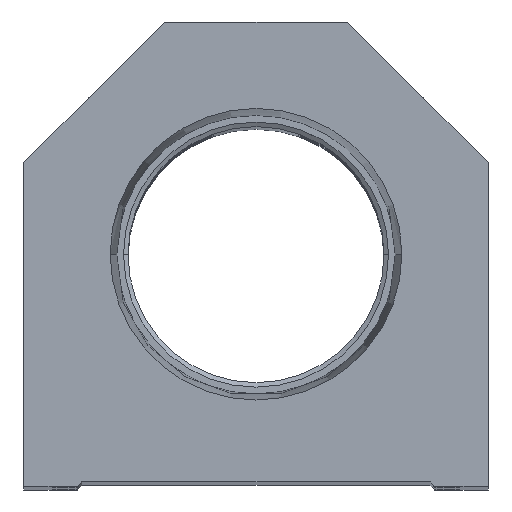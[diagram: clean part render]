
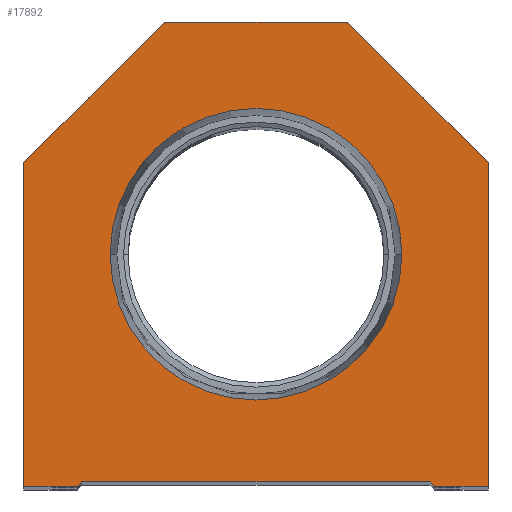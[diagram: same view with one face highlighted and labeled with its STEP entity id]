
A CAD part, top view. The second image highlights one B-rep face of the part: STEP entity #17892.
In plain terms, the highlighted planar face has unit normal (0, 0, 1).
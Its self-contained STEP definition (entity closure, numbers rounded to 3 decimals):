
#270 = LINE ( 'NONE', #368, #7147 ) ;
#328 = CARTESIAN_POINT ( 'NONE',  ( 25.4, 0., 0. ) ) ;
#368 = CARTESIAN_POINT ( 'NONE',  ( 25.4, 35.4, 0. ) ) ;
#451 = VERTEX_POINT ( 'NONE', #328 ) ;
#505 = LINE ( 'NONE', #12059, #2577 ) ;
#549 = ORIENTED_EDGE ( 'NONE', *, *, #17530, .T. ) ;
#568 = CARTESIAN_POINT ( 'NONE',  ( 15.947, 25.4, 0. ) ) ;
#1078 = ORIENTED_EDGE ( 'NONE', *, *, #5978, .T. ) ;
#1593 = CARTESIAN_POINT ( 'NONE',  ( -19.05, 0., 0. ) ) ;
#1811 = VERTEX_POINT ( 'NONE', #2468 ) ;
#1891 = CIRCLE ( 'NONE', #17880, 15.947 ) ;
#1935 = ORIENTED_EDGE ( 'NONE', *, *, #10422, .T. ) ;
#1956 = ORIENTED_EDGE ( 'NONE', *, *, #3929, .T. ) ;
#2033 = EDGE_CURVE ( 'NONE', #13351, #17469, #14339, .T. ) ;
#2123 = DIRECTION ( 'NONE',  ( 1., 0., 0. ) ) ;
#2124 = EDGE_CURVE ( 'NONE', #4191, #6564, #4710, .T. ) ;
#2361 = ORIENTED_EDGE ( 'NONE', *, *, #8197, .T. ) ;
#2468 = CARTESIAN_POINT ( 'NONE',  ( -19.05, 0.5, 0. ) ) ;
#2577 = VECTOR ( 'NONE', #17706, 1000. ) ;
#3410 = DIRECTION ( 'NONE',  ( 1., 0., 0. ) ) ;
#3605 = LINE ( 'NONE', #3698, #7396 ) ;
#3698 = CARTESIAN_POINT ( 'NONE',  ( 9.775, 9.775, 0. ) ) ;
#3853 = CARTESIAN_POINT ( 'NONE',  ( 10., 50.8, 0. ) ) ;
#3929 = EDGE_CURVE ( 'NONE', #18327, #1811, #4585, .T. ) ;
#3977 = ORIENTED_EDGE ( 'NONE', *, *, #6717, .T. ) ;
#4106 = DIRECTION ( 'NONE',  ( 0., -1., 0. ) ) ;
#4161 = VECTOR ( 'NONE', #11717, 1000. ) ;
#4191 = VERTEX_POINT ( 'NONE', #9398 ) ;
#4569 = EDGE_CURVE ( 'NONE', #6564, #4191, #1891, .T. ) ;
#4585 = LINE ( 'NONE', #9059, #14702 ) ;
#4710 = CIRCLE ( 'NONE', #10185, 15.947 ) ;
#4985 = PLANE ( 'NONE',  #17757 ) ;
#5176 = CARTESIAN_POINT ( 'NONE',  ( 0., 0., 0. ) ) ;
#5369 = CARTESIAN_POINT ( 'NONE',  ( 10., 50.8, 0. ) ) ;
#5401 = LINE ( 'NONE', #15556, #8357 ) ;
#5978 = EDGE_CURVE ( 'NONE', #8664, #13351, #17097, .T. ) ;
#6434 = DIRECTION ( 'NONE',  ( 0., 0., 1. ) ) ;
#6564 = VERTEX_POINT ( 'NONE', #568 ) ;
#6717 = EDGE_CURVE ( 'NONE', #15381, #12721, #270, .T. ) ;
#6850 = DIRECTION ( 'NONE',  ( 1., 0., 0. ) ) ;
#7147 = VECTOR ( 'NONE', #12093, 1000. ) ;
#7396 = VECTOR ( 'NONE', #7773, 1000. ) ;
#7509 = LINE ( 'NONE', #1593, #4161 ) ;
#7623 = CARTESIAN_POINT ( 'NONE',  ( -19.55, 0., 0. ) ) ;
#7763 = VECTOR ( 'NONE', #4106, 1000. ) ;
#7773 = DIRECTION ( 'NONE',  ( 0.707, -0.707, 0. ) ) ;
#7840 = CARTESIAN_POINT ( 'NONE',  ( 25.4, 35.4, 0. ) ) ;
#7915 = DIRECTION ( 'NONE',  ( 0.707, 0.707, 0. ) ) ;
#8169 = ORIENTED_EDGE ( 'NONE', *, *, #13507, .T. ) ;
#8197 = EDGE_CURVE ( 'NONE', #12721, #8664, #15125, .T. ) ;
#8357 = VECTOR ( 'NONE', #8543, 1000. ) ;
#8489 = ORIENTED_EDGE ( 'NONE', *, *, #2124, .F. ) ;
#8543 = DIRECTION ( 'NONE',  ( 1., 0., 0. ) ) ;
#8562 = DIRECTION ( 'NONE',  ( -0.707, -0.707, 0. ) ) ;
#8664 = VERTEX_POINT ( 'NONE', #11146 ) ;
#9059 = CARTESIAN_POINT ( 'NONE',  ( -9.775, 9.775, 0. ) ) ;
#9398 = CARTESIAN_POINT ( 'NONE',  ( -15.947, 25.4, 0. ) ) ;
#9562 = FACE_BOUND ( 'NONE', #17247, .T. ) ;
#9762 = CARTESIAN_POINT ( 'NONE',  ( -25.4, 35.4, 0. ) ) ;
#10065 = CARTESIAN_POINT ( 'NONE',  ( -25.4, 35.4, 0. ) ) ;
#10185 = AXIS2_PLACEMENT_3D ( 'NONE', #12840, #12749, #6850 ) ;
#10422 = EDGE_CURVE ( 'NONE', #16080, #17080, #3605, .T. ) ;
#10455 = ORIENTED_EDGE ( 'NONE', *, *, #17745, .T. ) ;
#10508 = VECTOR ( 'NONE', #11054, 1000. ) ;
#10520 = DIRECTION ( 'NONE',  ( 0., 0., 1. ) ) ;
#11047 = EDGE_LOOP ( 'NONE', ( #11207, #1956, #549, #1935, #8169, #10455, #3977, #2361, #1078, #12058 ) ) ;
#11054 = DIRECTION ( 'NONE',  ( -1., 0., 0. ) ) ;
#11146 = CARTESIAN_POINT ( 'NONE',  ( -10., 50.8, 0. ) ) ;
#11207 = ORIENTED_EDGE ( 'NONE', *, *, #15010, .T. ) ;
#11432 = CARTESIAN_POINT ( 'NONE',  ( -25.4, 0., 0. ) ) ;
#11717 = DIRECTION ( 'NONE',  ( 1., 0., 0. ) ) ;
#11962 = LINE ( 'NONE', #17535, #12616 ) ;
#12058 = ORIENTED_EDGE ( 'NONE', *, *, #2033, .T. ) ;
#12059 = CARTESIAN_POINT ( 'NONE',  ( 19.05, 0., 0. ) ) ;
#12093 = DIRECTION ( 'NONE',  ( -0.707, 0.707, 0. ) ) ;
#12616 = VECTOR ( 'NONE', #16399, 1000. ) ;
#12721 = VERTEX_POINT ( 'NONE', #5369 ) ;
#12749 = DIRECTION ( 'NONE',  ( 0., 0., 1. ) ) ;
#12840 = CARTESIAN_POINT ( 'NONE',  ( 0., 25.4, 0. ) ) ;
#13351 = VERTEX_POINT ( 'NONE', #9762 ) ;
#13507 = EDGE_CURVE ( 'NONE', #17080, #451, #505, .T. ) ;
#13803 = VECTOR ( 'NONE', #8562, 1000. ) ;
#14339 = LINE ( 'NONE', #11432, #7763 ) ;
#14601 = CARTESIAN_POINT ( 'NONE',  ( -25.4, 0., 0. ) ) ;
#14702 = VECTOR ( 'NONE', #7915, 1000. ) ;
#14940 = CARTESIAN_POINT ( 'NONE',  ( 19.55, 0., 0. ) ) ;
#15010 = EDGE_CURVE ( 'NONE', #17469, #18327, #7509, .T. ) ;
#15125 = LINE ( 'NONE', #3853, #10508 ) ;
#15381 = VERTEX_POINT ( 'NONE', #7840 ) ;
#15556 = CARTESIAN_POINT ( 'NONE',  ( -19.05, 0.5, 0. ) ) ;
#16080 = VERTEX_POINT ( 'NONE', #16498 ) ;
#16399 = DIRECTION ( 'NONE',  ( 0., 1., 0. ) ) ;
#16446 = ORIENTED_EDGE ( 'NONE', *, *, #4569, .F. ) ;
#16498 = CARTESIAN_POINT ( 'NONE',  ( 19.05, 0.5, 0. ) ) ;
#17080 = VERTEX_POINT ( 'NONE', #14940 ) ;
#17097 = LINE ( 'NONE', #10065, #13803 ) ;
#17247 = EDGE_LOOP ( 'NONE', ( #16446, #8489 ) ) ;
#17469 = VERTEX_POINT ( 'NONE', #14601 ) ;
#17530 = EDGE_CURVE ( 'NONE', #1811, #16080, #5401, .T. ) ;
#17535 = CARTESIAN_POINT ( 'NONE',  ( 25.4, 0., 0. ) ) ;
#17703 = CARTESIAN_POINT ( 'NONE',  ( 0., 25.4, 0. ) ) ;
#17706 = DIRECTION ( 'NONE',  ( 1., 0., 0. ) ) ;
#17745 = EDGE_CURVE ( 'NONE', #451, #15381, #11962, .T. ) ;
#17757 = AXIS2_PLACEMENT_3D ( 'NONE', #5176, #6434, #2123 ) ;
#17880 = AXIS2_PLACEMENT_3D ( 'NONE', #17703, #10520, #3410 ) ;
#17892 = ADVANCED_FACE ( 'NONE', ( #9562, #18187 ), #4985, .T. ) ;
#18187 = FACE_OUTER_BOUND ( 'NONE', #11047, .T. ) ;
#18327 = VERTEX_POINT ( 'NONE', #7623 ) ;
